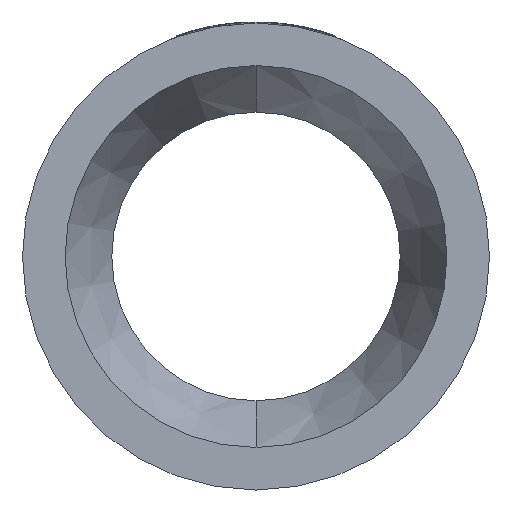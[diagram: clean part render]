
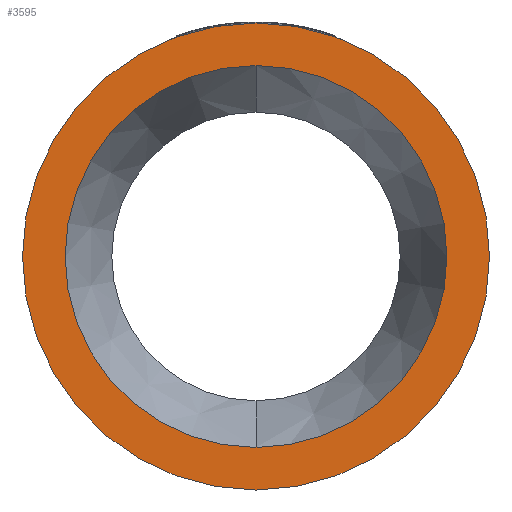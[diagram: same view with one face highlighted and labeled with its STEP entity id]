
A CAD part, left-side view. The second image highlights one B-rep face of the part: STEP entity #3595.
In plain terms, the highlighted planar face has unit normal (-1, 0, 0).
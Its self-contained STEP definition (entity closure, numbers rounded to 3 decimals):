
#117 = VERTEX_POINT ( 'NONE', #1643 ) ;
#127 = AXIS2_PLACEMENT_3D ( 'NONE', #2514, #2513, #2446 ) ;
#275 = CIRCLE ( 'NONE', #2419, 112.5 ) ;
#418 = FACE_BOUND ( 'NONE', #2787, .T. ) ;
#452 = VERTEX_POINT ( 'NONE', #2733 ) ;
#910 = AXIS2_PLACEMENT_3D ( 'NONE', #2418, #2403, #2396 ) ;
#920 = FACE_OUTER_BOUND ( 'NONE', #1818, .T. ) ;
#941 = ORIENTED_EDGE ( 'NONE', *, *, #1110, .T. ) ;
#1091 = EDGE_CURVE ( 'NONE', #2907, #452, #1663, .T. ) ;
#1110 = EDGE_CURVE ( 'NONE', #117, #3569, #1660, .T. ) ;
#1403 = CARTESIAN_POINT ( 'NONE',  ( 0., 0., 92. ) ) ;
#1625 = DIRECTION ( 'NONE',  ( 0., 0., -1. ) ) ;
#1632 = DIRECTION ( 'NONE',  ( 1., 0., 0. ) ) ;
#1637 = CARTESIAN_POINT ( 'NONE',  ( 0., 92., 0. ) ) ;
#1643 = CARTESIAN_POINT ( 'NONE',  ( 0., 0., -112.5 ) ) ;
#1660 = CIRCLE ( 'NONE', #910, 112.5 ) ;
#1663 = CIRCLE ( 'NONE', #127, 92. ) ;
#1749 = DIRECTION ( 'NONE',  ( 0., 0., 1. ) ) ;
#1766 = DIRECTION ( 'NONE',  ( -1., 0., 0. ) ) ;
#1786 = EDGE_CURVE ( 'NONE', #3569, #117, #275, .T. ) ;
#1818 = EDGE_LOOP ( 'NONE', ( #2732, #941 ) ) ;
#1874 = PLANE ( 'NONE',  #2178 ) ;
#2001 = CARTESIAN_POINT ( 'NONE',  ( 0., 0., 0. ) ) ;
#2077 = CARTESIAN_POINT ( 'NONE',  ( 0., 0., 112.5 ) ) ;
#2178 = AXIS2_PLACEMENT_3D ( 'NONE', #1637, #1632, #1625 ) ;
#2358 = AXIS2_PLACEMENT_3D ( 'NONE', #2001, #1766, #1749 ) ;
#2396 = DIRECTION ( 'NONE',  ( 0., 0., 1. ) ) ;
#2403 = DIRECTION ( 'NONE',  ( -1., 0., 0. ) ) ;
#2418 = CARTESIAN_POINT ( 'NONE',  ( 0., 0., 0. ) ) ;
#2419 = AXIS2_PLACEMENT_3D ( 'NONE', #2734, #2723, #2713 ) ;
#2446 = DIRECTION ( 'NONE',  ( 0., 0., 1. ) ) ;
#2513 = DIRECTION ( 'NONE',  ( -1., 0., 0. ) ) ;
#2514 = CARTESIAN_POINT ( 'NONE',  ( 0., 0., 0. ) ) ;
#2528 = EDGE_CURVE ( 'NONE', #452, #2907, #3539, .T. ) ;
#2696 = ORIENTED_EDGE ( 'NONE', *, *, #2528, .F. ) ;
#2713 = DIRECTION ( 'NONE',  ( 0., 0., 1. ) ) ;
#2723 = DIRECTION ( 'NONE',  ( -1., 0., 0. ) ) ;
#2732 = ORIENTED_EDGE ( 'NONE', *, *, #1786, .T. ) ;
#2733 = CARTESIAN_POINT ( 'NONE',  ( 0., 0., -92. ) ) ;
#2734 = CARTESIAN_POINT ( 'NONE',  ( 0., 0., 0. ) ) ;
#2787 = EDGE_LOOP ( 'NONE', ( #2879, #2696 ) ) ;
#2879 = ORIENTED_EDGE ( 'NONE', *, *, #1091, .F. ) ;
#2907 = VERTEX_POINT ( 'NONE', #1403 ) ;
#3539 = CIRCLE ( 'NONE', #2358, 92. ) ;
#3569 = VERTEX_POINT ( 'NONE', #2077 ) ;
#3595 = ADVANCED_FACE ( 'NONE', ( #418, #920 ), #1874, .F. ) ;
